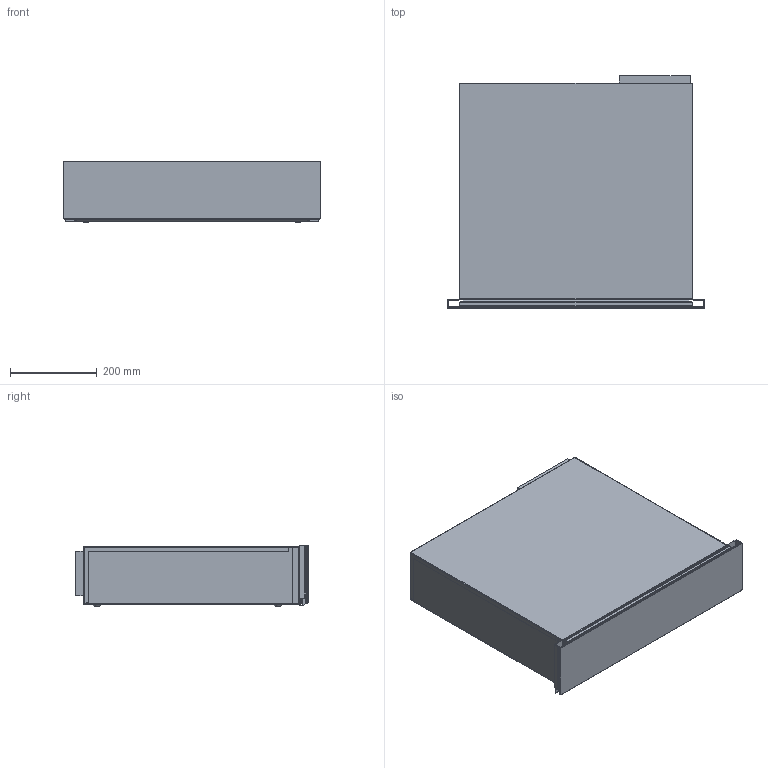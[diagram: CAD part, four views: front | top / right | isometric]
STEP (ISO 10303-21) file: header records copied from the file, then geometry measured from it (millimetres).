
FILE_DESCRIPTION(/* description */ (''),/* implementation_level */ '2;1');
FILE_NAME(/* name */ 'X3402600001-A',/* time_stamp */ '2022-12-05T18:35:16+01:00',/* author */ (''),/* organization */ (''),/* preprocessor_version */ 'ST-DEVELOPER v16.5',/* originating_system */ 'Rhino 7.24',/* authorisation */ '');
FILE_SCHEMA (('AUTOMOTIVE_DESIGN'));
Length unit declared in the file: millimetre
Products named in the file (1): Document
Bounding box: 596 x 537 x 142 mm (x, y, z)
Volume: 6550709.2 mm3; surface area: 2756510.9 mm2
Topology: 12 solids, 12 shells, 253 faces, 625 edges, 394 vertices
Faces by surface type: plane 144, cylinder 79, bspline 30
Entity records: 7826 total; most frequent: CARTESIAN_POINT 3530, ORIENTED_EDGE 1238, EDGE_CURVE 619, B_SPLINE_CURVE_WITH_KNOTS 462, VERTEX_POINT 394, EDGE_LOOP 265, ADVANCED_FACE 253, FACE_OUTER_BOUND 253
